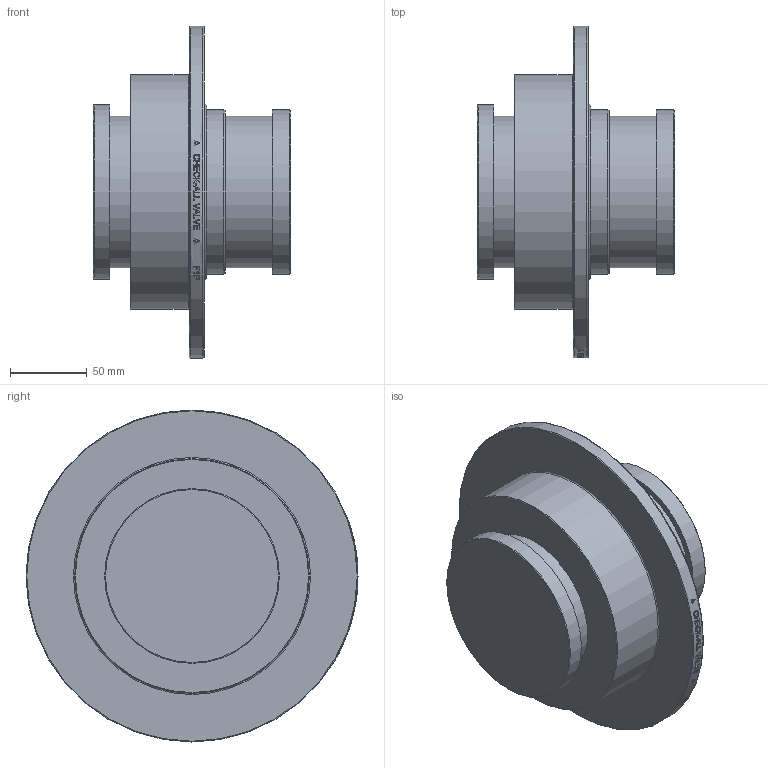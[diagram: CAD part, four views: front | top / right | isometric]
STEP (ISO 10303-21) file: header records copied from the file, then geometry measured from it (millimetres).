
FILE_DESCRIPTION( ( 'Unknown' ), '1' );
FILE_NAME( 'Y:/ENGR/3D Solid Edge Models/F1/F1 STEP/F1P.stp', 'Unknown', ( 'Unknown' ), ( 'Unknown' ), 'PSStep 14.0', 'Unknown', ' ' );
FILE_SCHEMA( ( 'AUTOMOTIVE_DESIGN { 1 0 10303 214 1 1 1 1 }' ) );
Length unit declared in the file: millimetre
Products named in the file (1): 1
Bounding box: 128.45 x 215.9 x 215.9 mm (x, y, z)
Volume: 1733370.2 mm3; surface area: 130883.4 mm2
Topology: 1 solids, 1 shells, 213 faces, 533 edges, 353 vertices
Faces by surface type: plane 129, bspline 45, cylinder 31, torus 5, cone 3
Full cylindrical faces by diameter (mm): 98.425 x2, 107.188 x2, 113.538 x1, 152.603 x1, 215.9 x1
Entity records: 9913 total; most frequent: CARTESIAN_POINT 4244, ORIENTED_EDGE 1036, EDGE_CURVE 518, B_SPLINE_CURVE_WITH_KNOTS 495, DIRECTION 384, VERTEX_POINT 353, EDGE_LOOP 259, FACE_OUTER_BOUND 225
